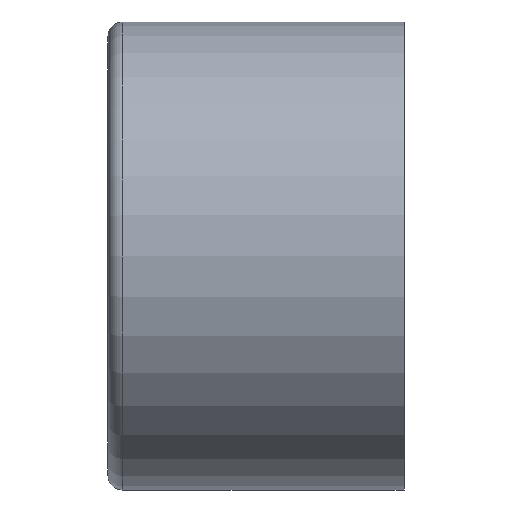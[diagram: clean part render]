
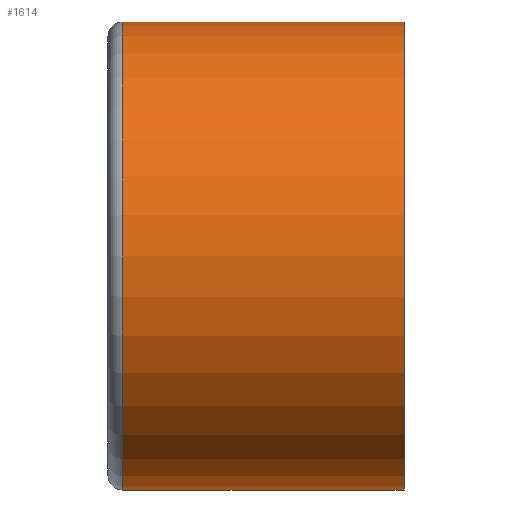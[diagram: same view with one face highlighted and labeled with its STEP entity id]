
A CAD part, left-side view. The second image highlights one B-rep face of the part: STEP entity #1614.
In plain terms, the highlighted cylindrical face has radius 41.148 mm (diameter 82.296 mm), a partial arc.
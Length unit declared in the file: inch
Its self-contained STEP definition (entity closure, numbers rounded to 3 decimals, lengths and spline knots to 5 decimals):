
#58 = ORIENTED_EDGE ( 'NONE', *, *, #1395, .T. ) ;
#127 = CARTESIAN_POINT ( 'NONE',  ( 0., 2.45, -1.62 ) ) ;
#211 = DIRECTION ( 'NONE',  ( 0., -1., 0. ) ) ;
#343 = DIRECTION ( 'NONE',  ( 0., 0., -1. ) ) ;
#777 = AXIS2_PLACEMENT_3D ( 'NONE', #3431, #1693, #343 ) ;
#811 = LINE ( 'NONE', #2647, #3552 ) ;
#815 = ORIENTED_EDGE ( 'NONE', *, *, #3041, .F. ) ;
#982 = LINE ( 'NONE', #2374, #2972 ) ;
#1079 = LINE ( 'NONE', #3458, #4502 ) ;
#1395 = EDGE_CURVE ( 'NONE', #1445, #2727, #811, .T. ) ;
#1402 = LINE ( 'NONE', #3485, #3204 ) ;
#1445 = VERTEX_POINT ( 'NONE', #127 ) ;
#1455 = VERTEX_POINT ( 'NONE', #2522 ) ;
#1612 = CARTESIAN_POINT ( 'NONE',  ( 0., 0.5, -1.62 ) ) ;
#1614 = ADVANCED_FACE ( 'NONE', ( #3804 ), #3132, .T. ) ;
#1634 = AXIS2_PLACEMENT_3D ( 'NONE', #4120, #3403, #2989 ) ;
#1655 = DIRECTION ( 'NONE',  ( 0., 0., -1. ) ) ;
#1668 = CARTESIAN_POINT ( 'NONE',  ( 0., 1.35, 1.62 ) ) ;
#1693 = DIRECTION ( 'NONE',  ( 0., -1., 0. ) ) ;
#1781 = CIRCLE ( 'NONE', #1634, 1.62 ) ;
#1796 = CARTESIAN_POINT ( 'NONE',  ( 0., 1.35, -1.62 ) ) ;
#1873 = ORIENTED_EDGE ( 'NONE', *, *, #3689, .T. ) ;
#1962 = ORIENTED_EDGE ( 'NONE', *, *, #3280, .F. ) ;
#1996 = VERTEX_POINT ( 'NONE', #1668 ) ;
#2017 = DIRECTION ( 'NONE',  ( 0., -1., 0. ) ) ;
#2316 = CIRCLE ( 'NONE', #2752, 1.62 ) ;
#2374 = CARTESIAN_POINT ( 'NONE',  ( 0., 1.4, 1.62 ) ) ;
#2445 = DIRECTION ( 'NONE',  ( 0., -1., 0. ) ) ;
#2487 = VERTEX_POINT ( 'NONE', #1612 ) ;
#2522 = CARTESIAN_POINT ( 'NONE',  ( 0., 2.45, 1.62 ) ) ;
#2647 = CARTESIAN_POINT ( 'NONE',  ( 0., 0., -1.62 ) ) ;
#2655 = ORIENTED_EDGE ( 'NONE', *, *, #3923, .T. ) ;
#2727 = VERTEX_POINT ( 'NONE', #1796 ) ;
#2752 = AXIS2_PLACEMENT_3D ( 'NONE', #3000, #2017, #1655 ) ;
#2791 = DIRECTION ( 'NONE',  ( 0., -1., 0. ) ) ;
#2892 = ORIENTED_EDGE ( 'NONE', *, *, #4540, .F. ) ;
#2972 = VECTOR ( 'NONE', #211, 39.37008 ) ;
#2989 = DIRECTION ( 'NONE',  ( 0., 0., -1. ) ) ;
#3000 = CARTESIAN_POINT ( 'NONE',  ( 0., 2.45, 0. ) ) ;
#3041 = EDGE_CURVE ( 'NONE', #1455, #1996, #1079, .T. ) ;
#3132 = CYLINDRICAL_SURFACE ( 'NONE', #777, 1.62 ) ;
#3204 = VECTOR ( 'NONE', #2791, 39.37008 ) ;
#3272 = CARTESIAN_POINT ( 'NONE',  ( 0., 0.5, 1.62 ) ) ;
#3280 = EDGE_CURVE ( 'NONE', #3574, #2487, #1781, .T. ) ;
#3341 = DIRECTION ( 'NONE',  ( 0., -1., 0. ) ) ;
#3403 = DIRECTION ( 'NONE',  ( 0., -1., 0. ) ) ;
#3431 = CARTESIAN_POINT ( 'NONE',  ( 0., 0., 0. ) ) ;
#3458 = CARTESIAN_POINT ( 'NONE',  ( 0., 0., 1.62 ) ) ;
#3480 = EDGE_LOOP ( 'NONE', ( #815, #1873, #58, #2655, #1962, #2892 ) ) ;
#3485 = CARTESIAN_POINT ( 'NONE',  ( 0., 1.4, -1.62 ) ) ;
#3552 = VECTOR ( 'NONE', #3341, 39.37008 ) ;
#3574 = VERTEX_POINT ( 'NONE', #3272 ) ;
#3689 = EDGE_CURVE ( 'NONE', #1455, #1445, #2316, .T. ) ;
#3804 = FACE_OUTER_BOUND ( 'NONE', #3480, .T. ) ;
#3923 = EDGE_CURVE ( 'NONE', #2727, #2487, #1402, .T. ) ;
#4120 = CARTESIAN_POINT ( 'NONE',  ( 0., 0.5, 0. ) ) ;
#4502 = VECTOR ( 'NONE', #2445, 39.37008 ) ;
#4540 = EDGE_CURVE ( 'NONE', #1996, #3574, #982, .T. ) ;
